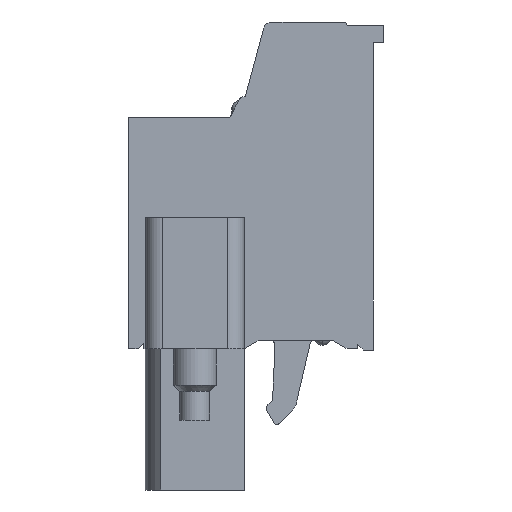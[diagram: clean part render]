
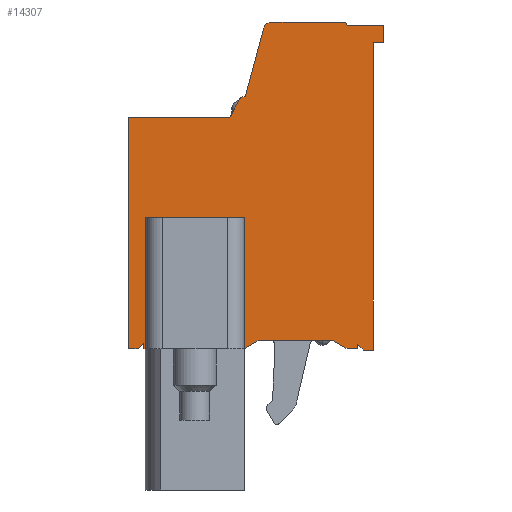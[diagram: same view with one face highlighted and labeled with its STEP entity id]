
A CAD part, front view. The second image highlights one B-rep face of the part: STEP entity #14307.
In plain terms, the highlighted planar face has unit normal (0, -1, 0).
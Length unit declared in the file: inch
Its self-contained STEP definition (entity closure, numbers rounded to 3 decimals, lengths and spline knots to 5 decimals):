
#186=DIRECTION('',(0.,0.,1.));
#187=VECTOR('',#186,0.53543);
#188=CARTESIAN_POINT('',(-0.23418,-1.215,2.78994));
#189=LINE('',#188,#187);
#234=DIRECTION('',(0.466,0.,0.885));
#235=VECTOR('',#234,0.04863);
#236=CARTESIAN_POINT('',(0.0008,-1.215,3.32537));
#237=LINE('',#236,#235);
#993=CARTESIAN_POINT('',(0.03042,-1.215,3.36474));
#994=DIRECTION('',(0.,1.,0.));
#995=DIRECTION('',(-0.885,0.,0.466));
#996=AXIS2_PLACEMENT_3D('',#993,#994,#995);
#1014=CARTESIAN_POINT('',(0.09785,-1.215,3.52616));
#1015=DIRECTION('',(0.,1.,0.));
#1016=DIRECTION('',(-0.966,0.,0.259));
#1017=AXIS2_PLACEMENT_3D('',#1014,#1015,#1016);
#1019=DIRECTION('',(1.,0.,0.));
#1020=VECTOR('',#1019,0.166);
#1021=CARTESIAN_POINT('',(0.09785,-1.215,3.54584));
#1022=LINE('',#1021,#1020);
#1116=CARTESIAN_POINT('',(0.26385,-1.215,3.53797));
#1117=DIRECTION('',(0.,1.,0.));
#1118=DIRECTION('',(0.,0.,1.));
#1119=AXIS2_PLACEMENT_3D('',#1116,#1117,#1118);
#1125=DIRECTION('',(0.,0.,-1.));
#1126=VECTOR('',#1125,0.03937);
#1127=CARTESIAN_POINT('',(0.35637,-1.215,3.53797));
#1128=LINE('',#1127,#1126);
#1133=DIRECTION('',(-1.,0.,0.));
#1134=VECTOR('',#1133,0.02362);
#1135=CARTESIAN_POINT('',(0.35637,-1.215,3.4986));
#1136=LINE('',#1135,#1134);
#1145=DIRECTION('',(0.,0.,-1.));
#1146=VECTOR('',#1145,0.71181);
#1147=CARTESIAN_POINT('',(0.33275,-1.215,3.4986));
#1148=LINE('',#1147,#1146);
#1153=DIRECTION('',(-0.707,0.,0.707));
#1154=VECTOR('',#1153,0.01949);
#1155=CARTESIAN_POINT('',(0.30913,-1.215,2.78679));
#1156=LINE('',#1155,#1154);
#1169=DIRECTION('',(-1.,0.,0.));
#1170=VECTOR('',#1169,0.02362);
#1171=CARTESIAN_POINT('',(0.29535,-1.215,2.78994));
#1172=LINE('',#1171,#1170);
#1177=DIRECTION('',(-1.,0.,0.));
#1178=VECTOR('',#1177,0.16941);
#1179=CARTESIAN_POINT('',(0.23763,-1.215,2.80962));
#1180=LINE('',#1179,#1178);
#1249=DIRECTION('',(-0.866,0.,-0.5));
#1250=VECTOR('',#1249,0.03937);
#1251=CARTESIAN_POINT('',(0.06822,-1.215,2.80962));
#1252=LINE('',#1251,#1250);
#1301=DIRECTION('',(-1.,0.,0.));
#1302=VECTOR('',#1301,0.00453);
#1303=CARTESIAN_POINT('',(-0.19422,-1.215,2.78994));
#1304=LINE('',#1303,#1302);
#3827=DIRECTION('',(-0.707,0.,-0.707));
#3828=VECTOR('',#3827,0.01782);
#3829=CARTESIAN_POINT('',(-0.19875,-1.215,2.80254));
#3830=LINE('',#3829,#3828);
#3835=DIRECTION('',(-1.,0.,0.));
#3836=VECTOR('',#3835,0.02283);
#3837=CARTESIAN_POINT('',(-0.21135,-1.215,2.78994));
#3838=LINE('',#3837,#3836);
#3839=DIRECTION('',(-1.,0.,0.));
#3840=VECTOR('',#3839,0.23498);
#3841=CARTESIAN_POINT('',(0.0008,-1.215,3.32537));
#3842=LINE('',#3841,#3840);
#3843=DIRECTION('',(-1.,0.,0.));
#3844=VECTOR('',#3843,0.00592);
#3845=CARTESIAN_POINT('',(0.03633,-1.215,3.37261));
#3846=LINE('',#3845,#3844);
#3847=DIRECTION('',(-0.259,0.,-0.966));
#3848=VECTOR('',#3847,0.16423);
#3849=CARTESIAN_POINT('',(0.07884,-1.215,3.53125));
#3850=LINE('',#3849,#3848);
#3851=DIRECTION('',(-1.,0.,0.));
#3852=VECTOR('',#3851,0.08465);
#3853=CARTESIAN_POINT('',(0.35637,-1.215,3.53797));
#3854=LINE('',#3853,#3852);
#3855=DIRECTION('',(1.,0.,0.));
#3856=VECTOR('',#3855,0.02362);
#3857=CARTESIAN_POINT('',(0.30913,-1.215,2.78679));
#3858=LINE('',#3857,#3856);
#3859=DIRECTION('',(0.,0.,1.));
#3860=VECTOR('',#3859,0.01063);
#3861=CARTESIAN_POINT('',(0.29535,-1.215,2.78994));
#3862=LINE('',#3861,#3860);
#3863=DIRECTION('',(0.866,0.,-0.5));
#3864=VECTOR('',#3863,0.03937);
#3865=CARTESIAN_POINT('',(0.23763,-1.215,2.80962));
#3866=LINE('',#3865,#3864);
#3867=DIRECTION('',(0.,0.,-1.));
#3868=VECTOR('',#3867,0.30315);
#3869=CARTESIAN_POINT('',(0.03413,-1.215,3.09309));
#3870=LINE('',#3869,#3868);
#3871=DIRECTION('',(1.,0.,0.));
#3872=VECTOR('',#3871,0.22835);
#3873=CARTESIAN_POINT('',(-0.19422,-1.215,3.09309));
#3874=LINE('',#3873,#3872);
#3875=DIRECTION('',(0.,0.,-1.));
#3876=VECTOR('',#3875,0.0126);
#3877=CARTESIAN_POINT('',(-0.19875,-1.215,2.80254));
#3878=LINE('',#3877,#3876);
#3918=DIRECTION('',(0.,0.,-1.));
#3919=VECTOR('',#3918,0.30315);
#3920=CARTESIAN_POINT('',(-0.19422,-1.215,3.09309));
#3921=LINE('',#3920,#3919);
#7002=CARTESIAN_POINT('',(0.03042,-1.215,3.37261));
#7003=VERTEX_POINT('',#7002);
#7004=CARTESIAN_POINT('',(0.02345,-1.215,3.36841));
#7005=VERTEX_POINT('',#7004);
#7084=CARTESIAN_POINT('',(0.07884,-1.215,3.53125));
#7085=VERTEX_POINT('',#7084);
#7086=CARTESIAN_POINT('',(0.09785,-1.215,3.54584));
#7087=VERTEX_POINT('',#7086);
#7148=CARTESIAN_POINT('',(0.26385,-1.215,3.54584));
#7149=VERTEX_POINT('',#7148);
#7150=CARTESIAN_POINT('',(0.27172,-1.215,3.53797));
#7151=VERTEX_POINT('',#7150);
#7558=CARTESIAN_POINT('',(-0.19875,-1.215,2.80254));
#7559=VERTEX_POINT('',#7558);
#7560=CARTESIAN_POINT('',(-0.21135,-1.215,2.78994));
#7561=VERTEX_POINT('',#7560);
#7952=CARTESIAN_POINT('',(0.33275,-1.215,3.4986));
#7953=VERTEX_POINT('',#7952);
#7954=CARTESIAN_POINT('',(0.33275,-1.215,2.78679));
#7955=VERTEX_POINT('',#7954);
#8000=CARTESIAN_POINT('',(0.35637,-1.215,3.4986));
#8001=VERTEX_POINT('',#8000);
#8002=CARTESIAN_POINT('',(0.35637,-1.215,3.53797));
#8003=VERTEX_POINT('',#8002);
#8004=CARTESIAN_POINT('',(0.29535,-1.215,2.80057));
#8005=VERTEX_POINT('',#8004);
#8006=CARTESIAN_POINT('',(0.30913,-1.215,2.78679));
#8007=VERTEX_POINT('',#8006);
#8268=CARTESIAN_POINT('',(-0.23418,-1.215,2.78994));
#8269=VERTEX_POINT('',#8268);
#8390=CARTESIAN_POINT('',(0.03413,-1.215,2.78994));
#8392=VERTEX_POINT('',#8390);
#8398=CARTESIAN_POINT('',(0.06822,-1.215,2.80962));
#8399=VERTEX_POINT('',#8398);
#8490=CARTESIAN_POINT('',(-0.23418,-1.215,3.32537));
#8491=VERTEX_POINT('',#8490);
#8536=CARTESIAN_POINT('',(-0.19875,-1.215,2.78994));
#8537=VERTEX_POINT('',#8536);
#8538=CARTESIAN_POINT('',(-0.19422,-1.215,2.78994));
#8539=VERTEX_POINT('',#8538);
#8562=CARTESIAN_POINT('',(0.0008,-1.215,3.32537));
#8563=VERTEX_POINT('',#8562);
#8582=CARTESIAN_POINT('',(0.29535,-1.215,2.78994));
#8583=VERTEX_POINT('',#8582);
#8584=CARTESIAN_POINT('',(0.27172,-1.215,2.78994));
#8585=VERTEX_POINT('',#8584);
#8590=CARTESIAN_POINT('',(-0.19422,-1.215,3.09309));
#8591=VERTEX_POINT('',#8590);
#8612=CARTESIAN_POINT('',(0.23763,-1.215,2.80962));
#8613=VERTEX_POINT('',#8612);
#8672=CARTESIAN_POINT('',(0.03633,-1.215,3.37261));
#8673=VERTEX_POINT('',#8672);
#8674=CARTESIAN_POINT('',(0.03413,-1.215,3.09309));
#8675=VERTEX_POINT('',#8674);
#14270=CARTESIAN_POINT('',(0.06109,-1.215,3.16631));
#14271=DIRECTION('',(0.,1.,0.));
#14272=DIRECTION('',(0.,0.,1.));
#14273=AXIS2_PLACEMENT_3D('',#14270,#14271,#14272);
#14274=PLANE('',#14273);
#14275=ORIENTED_EDGE('',*,*,#8967,.T.);
#14276=ORIENTED_EDGE('',*,*,#9064,.F.);
#14277=ORIENTED_EDGE('',*,*,#9172,.T.);
#14278=ORIENTED_EDGE('',*,*,#10146,.T.);
#14279=ORIENTED_EDGE('',*,*,#10162,.F.);
#14280=ORIENTED_EDGE('',*,*,#10176,.F.);
#14281=ORIENTED_EDGE('',*,*,#10190,.T.);
#14282=ORIENTED_EDGE('',*,*,#10202,.T.);
#14283=ORIENTED_EDGE('',*,*,#10278,.T.);
#14284=ORIENTED_EDGE('',*,*,#10292,.F.);
#14285=ORIENTED_EDGE('',*,*,#10304,.T.);
#14286=ORIENTED_EDGE('',*,*,#10318,.T.);
#14287=ORIENTED_EDGE('',*,*,#10334,.T.);
#14288=ORIENTED_EDGE('',*,*,#10348,.F.);
#14289=ORIENTED_EDGE('',*,*,#10360,.T.);
#14290=ORIENTED_EDGE('',*,*,#10374,.F.);
#14291=ORIENTED_EDGE('',*,*,#10390,.T.);
#14292=ORIENTED_EDGE('',*,*,#10404,.F.);
#14293=ORIENTED_EDGE('',*,*,#10418,.T.);
#14294=ORIENTED_EDGE('',*,*,#10512,.T.);
#14296=ORIENTED_EDGE('',*,*,#14295,.F.);
#14298=ORIENTED_EDGE('',*,*,#14297,.F.);
#14300=ORIENTED_EDGE('',*,*,#14299,.T.);
#14301=ORIENTED_EDGE('',*,*,#10606,.T.);
#14302=ORIENTED_EDGE('',*,*,#14236,.F.);
#14303=ORIENTED_EDGE('',*,*,#14252,.T.);
#14304=ORIENTED_EDGE('',*,*,#14263,.T.);
#14305=EDGE_LOOP('',(#14275,#14276,#14277,#14278,#14279,#14280,#14281,#14282,
#14283,#14284,#14285,#14286,#14287,#14288,#14289,#14290,#14291,#14292,#14293,
#14294,#14296,#14298,#14300,#14301,#14302,#14303,#14304));
#14306=FACE_OUTER_BOUND('',#14305,.F.);
#14307=ADVANCED_FACE('',(#14306),#14274,.F.);
#997=CIRCLE('',#996,0.00787);
#1018=CIRCLE('',#1017,0.01969);
#1120=CIRCLE('',#1119,0.00787);
#8967=EDGE_CURVE('',#8269,#8491,#189,.T.);
#9064=EDGE_CURVE('',#8563,#8491,#3842,.T.);
#9172=EDGE_CURVE('',#8563,#7005,#237,.T.);
#10146=EDGE_CURVE('',#7005,#7003,#997,.T.);
#10162=EDGE_CURVE('',#8673,#7003,#3846,.T.);
#10176=EDGE_CURVE('',#7085,#8673,#3850,.T.);
#10190=EDGE_CURVE('',#7085,#7087,#1018,.T.);
#10202=EDGE_CURVE('',#7087,#7149,#1022,.T.);
#10278=EDGE_CURVE('',#7149,#7151,#1120,.T.);
#10292=EDGE_CURVE('',#8003,#7151,#3854,.T.);
#10304=EDGE_CURVE('',#8003,#8001,#1128,.T.);
#10318=EDGE_CURVE('',#8001,#7953,#1136,.T.);
#10334=EDGE_CURVE('',#7953,#7955,#1148,.T.);
#10348=EDGE_CURVE('',#8007,#7955,#3858,.T.);
#10360=EDGE_CURVE('',#8007,#8005,#1156,.T.);
#10374=EDGE_CURVE('',#8583,#8005,#3862,.T.);
#10390=EDGE_CURVE('',#8583,#8585,#1172,.T.);
#10404=EDGE_CURVE('',#8613,#8585,#3866,.T.);
#10418=EDGE_CURVE('',#8613,#8399,#1180,.T.);
#10512=EDGE_CURVE('',#8399,#8392,#1252,.T.);
#10606=EDGE_CURVE('',#8539,#8537,#1304,.T.);
#14236=EDGE_CURVE('',#7559,#8537,#3878,.T.);
#14252=EDGE_CURVE('',#7559,#7561,#3830,.T.);
#14263=EDGE_CURVE('',#7561,#8269,#3838,.T.);
#14295=EDGE_CURVE('',#8675,#8392,#3870,.T.);
#14297=EDGE_CURVE('',#8591,#8675,#3874,.T.);
#14299=EDGE_CURVE('',#8591,#8539,#3921,.T.);
